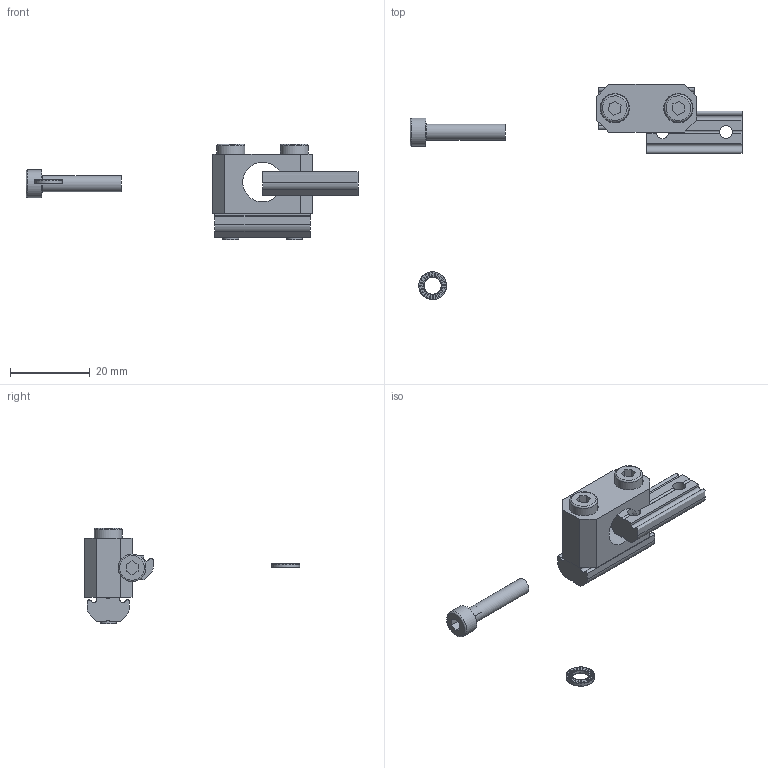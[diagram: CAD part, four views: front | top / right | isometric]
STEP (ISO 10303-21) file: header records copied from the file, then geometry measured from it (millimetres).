
FILE_DESCRIPTION( ( 'Unknown' ), '1' );
FILE_NAME( 'C:/Users/Fabrizio/Desktop/DISEGNI ACCESSORI FP SOLIDEDGE/CA.KVB.L10.stp', 'Unknown', ( 'Unknown' ), ( 'Unknown' ), 'PSStep 13.0', 'Unknown', ' ' );
FILE_SCHEMA( ( 'AUTOMOTIVE_DESIGN { 1 0 10303 214 1 1 1 1 }' ) );
Length unit declared in the file: millimetre
Products named in the file (5): Assem1; KVB.L10; V-tcei M  4 x 20; R.4.SCH; CA.GWP.4.16
Bounding box: 83.5 x 54.14 x 24 mm (x, y, z)
Volume: 8595.7 mm3; surface area: 8120.4 mm2
Topology: 7 solids, 10 shells, 727 faces, 2119 edges, 1405 vertices
Faces by surface type: plane 666, cylinder 52, torus 6, cone 3
Full cylindrical faces by diameter (mm): 3.242 x4, 4 x3, 4.2 x6, 4.3 x3, 7 x6, 7.4 x4
Entity records: 10389 total; most frequent: CARTESIAN_POINT 1567, DIRECTION 1493, ORIENTED_EDGE 1468, EDGE_CURVE 734, AXIS2_PLACEMENT_3D 501, VERTEX_POINT 495, LINE 491, VECTOR 491
